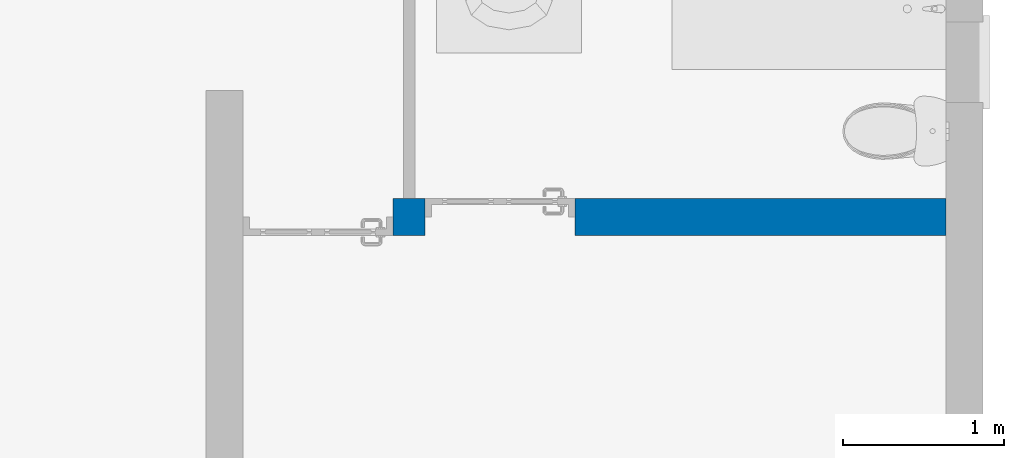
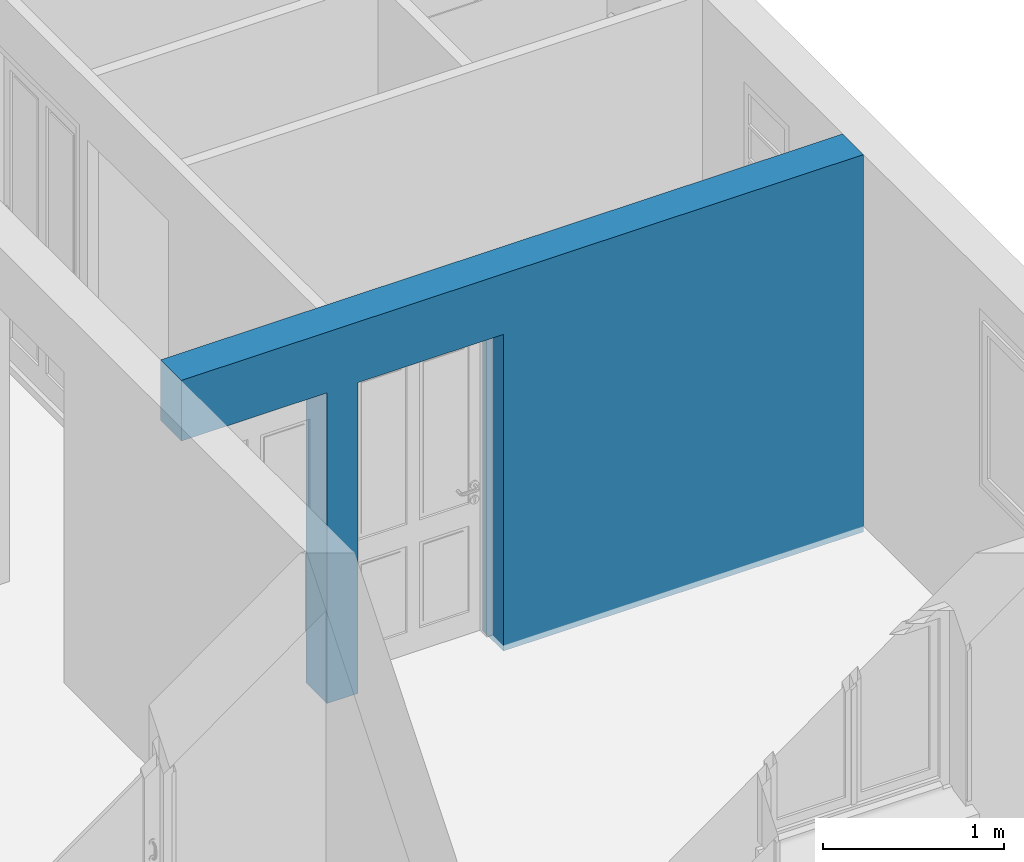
# One storey, part 5 of 17: 1 wall, 2 openings.
"""IFC2X3 building model written with IfcOpenShell, lengths in metres."""

from ifc_helpers import new_model, entity, si_unit, converted_unit, derived_unit, money_unit, direction, frame, origin_with_axes, origin_2d_with_axis, place, context, subcontext, project, spatial, polyline, rectangle, outline, extrude, boolean, faceted_brep, material, type_object, element, save


model = new_model("IFC2X3")

# Units and contexts
model_context = context("Model", 3, precision=1e-05, world=origin_with_axes(), true_north=direction((0.0, 1.0)))
body_context = subcontext(model_context, "Body", "Model", "MODEL_VIEW")
ifc_project = project(units=[si_unit("LENGTHUNIT", "METRE"), si_unit("AREAUNIT", "SQUARE_METRE"), si_unit("VOLUMEUNIT", "CUBIC_METRE"), converted_unit("PLANEANGLEUNIT", "DEGREE", entity("IfcPlaneAngleMeasure", 0.0174532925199), si_unit("PLANEANGLEUNIT", "RADIAN"), dimensions=[0, 0, 0, 0, 0, 0, 0]), si_unit("SOLIDANGLEUNIT", "STERADIAN"), money_unit("CHF"), converted_unit("TIMEUNIT", "Year", entity("IfcTimeMeasure", 31556926.0), si_unit("TIMEUNIT", "SECOND"), dimensions=[0, 0, 1, 0, 0, 0, 0]), si_unit("MASSUNIT", "GRAM", prefix="KILO"), si_unit("THERMODYNAMICTEMPERATUREUNIT", "DEGREE_CELSIUS"), si_unit("LUMINOUSINTENSITYUNIT", "LUMEN"), si_unit("ENERGYUNIT", "JOULE", prefix="MEGA"), derived_unit("THERMALCONDUCTANCEUNIT", [(si_unit("POWERUNIT", "WATT"), 1), (si_unit("LENGTHUNIT", "METRE"), -1), (si_unit("THERMODYNAMICTEMPERATUREUNIT", "KELVIN"), -1)]), derived_unit("SPECIFICHEATCAPACITYUNIT", [(si_unit("ENERGYUNIT", "JOULE"), 1), (si_unit("MASSUNIT", "GRAM", prefix="KILO"), -1), (si_unit("THERMODYNAMICTEMPERATUREUNIT", "KELVIN"), -1)]), derived_unit("MASSDENSITYUNIT", [(si_unit("MASSUNIT", "GRAM", prefix="KILO"), 1), (si_unit("VOLUMEUNIT", "CUBIC_METRE"), -1)])], contexts=[model_context])

# Site, building, storey
site_placement = place(None, origin_with_axes())
site = spatial("IfcSite", under=ifc_project, at=site_placement, Name="Site", CompositionType="ELEMENT")
building_placement = place(site_placement, origin_with_axes())
building = spatial("IfcBuilding", under=site, at=building_placement, Name="Bâtiment", CompositionType="ELEMENT")
storey_placement = place(building_placement, frame((0.0, 0.0, 3.0), z_axis=(0.0, 0.0, 1.0), x_axis=(1.0, 0.0, 0.0)))
storey = spatial("IfcBuildingStorey", under=building, at=storey_placement, Name="RDJ", CompositionType="ELEMENT", Elevation=3.0)

# Wall, openings
ifc_material = material(Name="Hachure solide 2628782308")
wall_type = type_object("IfcWallType", Name="Hachure solide 2628782308 230", PredefinedType="NOTDEFINED")
wall_placement = place(storey_placement, frame((91.9735190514, 11.2803410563, -3.04), z_axis=(0.0, 0.0, 1.0), x_axis=(1.0, 0.0, 0.0)))
wall = element("IfcWall", 1, at=wall_placement, inside=storey, type_object=wall_type, material=ifc_material, Name="MurExt-008", context=body_context, shape_type="CSG", body=[
    boolean("DIFFERENCE", boolean("DIFFERENCE", extrude(outline(polyline([(-0.23, -0.23), (4.59, -0.23), (4.59, 0.0), (-0.23, 0.0), (-0.23, -0.23)])), origin_with_axes(), (0.0, 0.0, 1.0), 2.55), faceted_brep([(0.0, 0.0, 2.55), (1.78813763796e-09, 0.0, 0.04), (2.05769871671, 3.51667726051e-08, 0.04), (2.05769871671, 3.51667726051e-08, 0.0), (-0.23, 0.0, 0.0), (-0.23, 0.0, 2.55), (0.0, -0.23, 2.55), (1.78813763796e-09, -0.23, 0.04), (2.05769871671, -0.229999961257, 0.04), (2.05769871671, -0.229999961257, 0.0), (-0.23, -0.23, 0.0), (-0.23, -0.23, 2.55)], [[[0, 1, 2, 3, 4, 5]], [[1, 0, 6, 7]], [[2, 1, 7, 8]], [[3, 2, 8, 9]], [[3, 9, 10, 4]], [[5, 4, 10, 11]], [[6, 0, 5, 11]], [[7, 6, 11, 10, 9, 8]]])), faceted_brep([(4.36, 0.0, 0.0), (4.36, 0.0, 2.55), (4.59, 0.0, 2.55), (4.59, 0.0, 0.0), (4.36, -0.23, 2.55), (4.36, -0.23, 0.0), (4.59, -0.23, 2.55), (4.59, -0.23, 0.0)], [[[0, 1, 2, 3]], [[4, 1, 0, 5]], [[1, 4, 6, 2]], [[6, 7, 3, 2]], [[5, 0, 3, 7]], [[4, 5, 7, 6]]])),
])
opening_1_placement = place(wall_placement, frame((1.5926986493, 0.0, 0.04), z_axis=(0.0, 0.0, 1.0), x_axis=(1.0, 0.0, 0.0)))
element("IfcOpeningElement", 2, at=opening_1_placement, cuts=wall, Name="Por-053", context=body_context, shape_type="SweptSolid", body=[
    extrude(rectangle(XDim=0.93, YDim=2.1, at=origin_2d_with_axis()), frame((0.0, -0.23, 1.05), z_axis=(0.0, -1.0, 0.0), x_axis=(-1.0, 0.0, 0.0)), (0.0, 0.0, -1.0), 0.69),
])
opening_2_placement = place(wall_placement, frame((0.465, 0.0, 0.04), z_axis=(0.0, 0.0, 1.0), x_axis=(1.0, 0.0, 0.0)))
element("IfcOpeningElement", 3, at=opening_2_placement, cuts=wall, Name="Por-050", context=body_context, shape_type="SweptSolid", body=[
    extrude(rectangle(XDim=0.93, YDim=2.1, at=origin_2d_with_axis()), frame((0.0, 0.23, 1.05), z_axis=(0.0, -1.0, 0.0), x_axis=(-1.0, 0.0, 0.0)), (0.0, 0.0, 1.0), 0.69),
])

save(model, "model.ifc")
